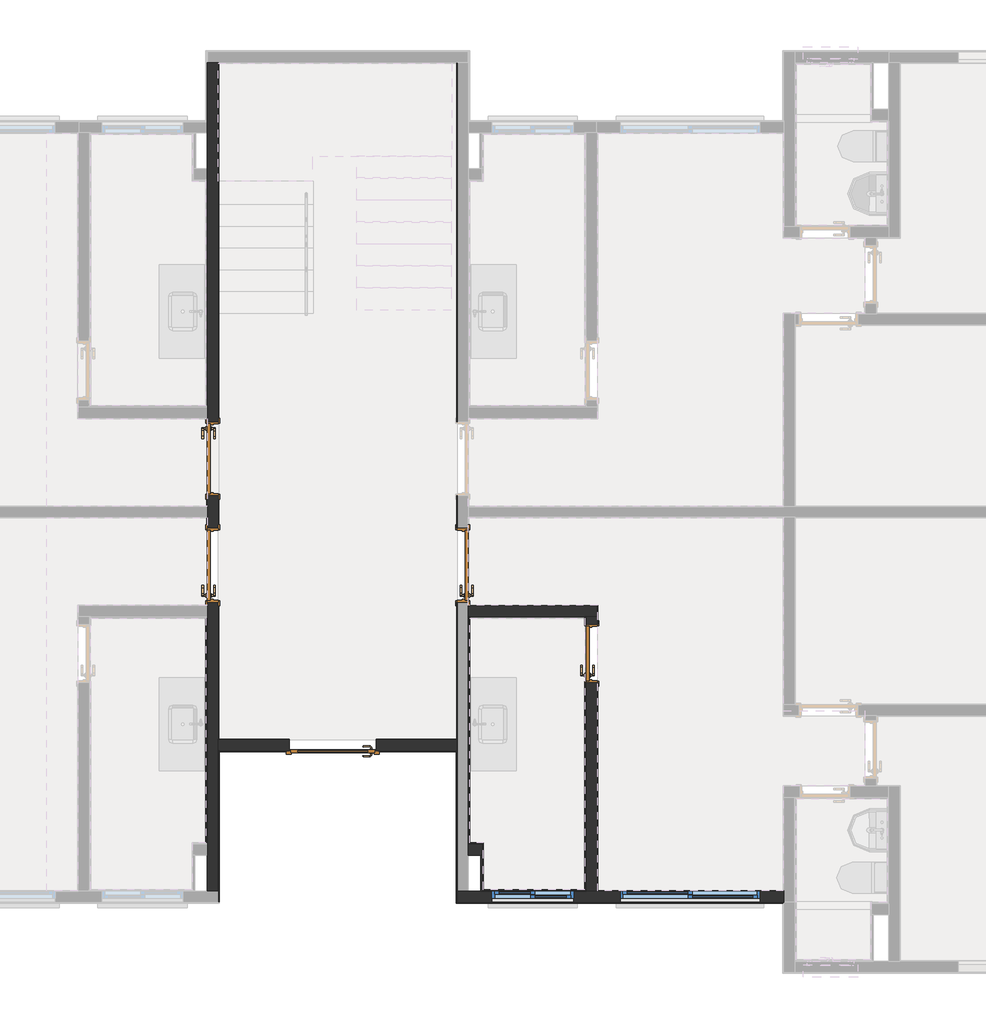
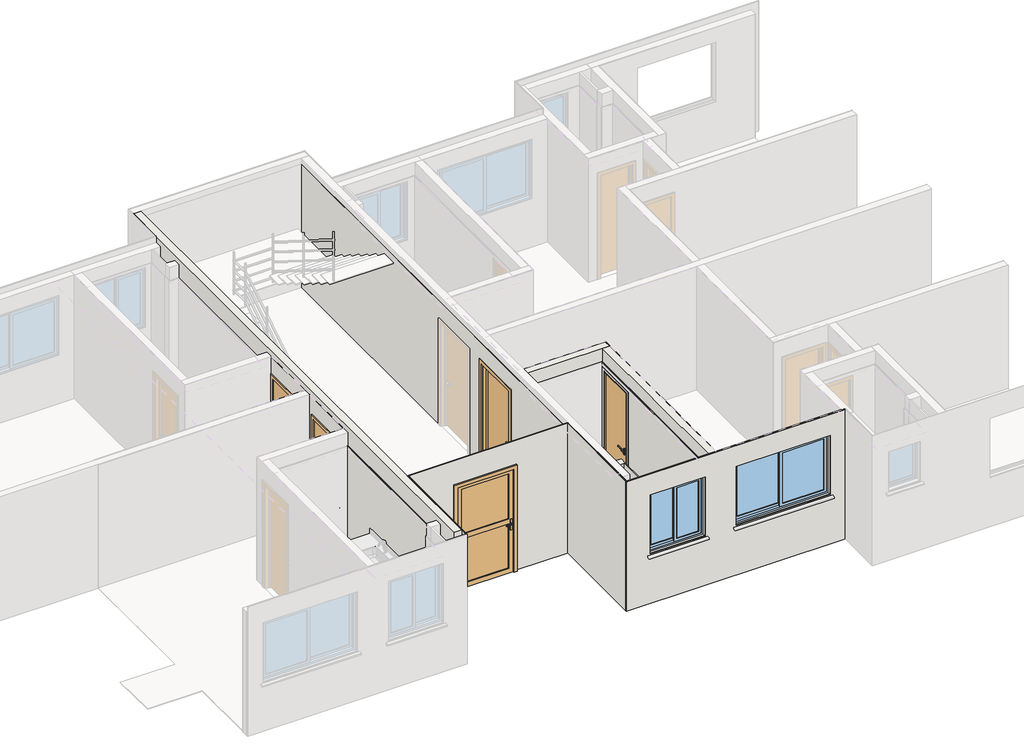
# One storey, part 3 of 9: 25 walls, 5 doors, 2 windows.
"""IFC4 building model written with IfcOpenShell, lengths in millimetres."""

from ifc_helpers import new_model, si_unit, frame, origin, place, context, project, spatial, polyline, outline, extrude, faceted_brep, transform, mapped, element, save
from components import porta_de_entrada_torre_110x210_d7ea5157, porta_de_madeira_interna_70_x_210_porta_de_madeira_interna_d0067c94, porta_de_madeira_interna_90x210_porta_de_madeira_interna_90_f8e7363e, porta_de_madeira_interna_90x210_porta_de_madeira_interna_90_f331fdd0, window_105x120_428ac20c, window_180x120_e659ab7e

model = new_model("IFC4")

# Units and contexts
model_context = context("Model", 3, world=origin())
ifc_project = project(units=[si_unit("LENGTHUNIT", "METRE", prefix="MILLI")], contexts=[model_context])

# Site, building, storey
site = spatial("IfcSite", under=ifc_project)
building = spatial("IfcBuilding", under=site)
storey = spatial("IfcBuildingStorey", under=building, Name="3º Pavimento", Elevation=5260.0)

# Doors
placement = place(None, origin())
porta_de_entrada_torre_110x210_shape = porta_de_entrada_torre_110x210_d7ea5157(model_context)
element("IfcDoor", 1, ObjectType="Porta de Entrada Torre : 110x210", at=placement, inside=storey, context=model_context, shape_type="MappedRepresentation", body=[
    mapped(porta_de_entrada_torre_110x210_shape, transform((10345.9990083, 3322.00443, 5260.0), x_axis=(-1.0, 0.0, 0.0), y_axis=(0.0, -1.0, 0.0), z_axis=(0.0, 0.0, 1.0))),
])
porta_de_madeira_interna_70_x_210_porta_de_madeira_interna_shape = porta_de_madeira_interna_70_x_210_porta_de_madeira_interna_d0067c94(model_context)
element("IfcDoor", 2, ObjectType="Porta de Madeira Interna 70 x 210 : Porta de Madeira Interna 70 x 210", at=placement, inside=storey, context=model_context, shape_type="MappedRepresentation", body=[
    mapped(porta_de_madeira_interna_70_x_210_porta_de_madeira_interna_shape, transform((13673.8210213, 4578.6603139, 5260.0), x_axis=(0.0, 1.0, 0.0), y_axis=(-1.0, 0.0, 0.0), z_axis=(0.0, 0.0, 1.0))),
])
porta_de_madeira_interna_90x210_porta_de_madeira_interna_90_shape = porta_de_madeira_interna_90x210_porta_de_madeira_interna_90_f8e7363e(model_context)
element("IfcDoor", 3, ObjectType="Porta de Madeira Interna 90x210 : Porta de Madeira Interna 90 x 210", at=placement, inside=storey, context=model_context, shape_type="MappedRepresentation", body=[
    mapped(porta_de_madeira_interna_90x210_porta_de_madeira_interna_90_shape, transform((8796.8213008, 7085.0103139, 5260.0), x_axis=(0.0, -1.0, 0.0), y_axis=(1.0, 0.0, 0.0), z_axis=(0.0, 0.0, 1.0))),
])
element("IfcDoor", 4, ObjectType="Porta de Madeira Interna 90x210 : Porta de Madeira Interna 90 x 210", at=placement, inside=storey, context=model_context, shape_type="MappedRepresentation", body=[
    mapped(porta_de_madeira_interna_90x210_porta_de_madeira_interna_90_shape, transform((12023.1734066, 5715.0103139, 5260.0), x_axis=(0.0, 1.0, 0.0), y_axis=(-1.0, 0.0, 0.0), z_axis=(0.0, 0.0, 1.0))),
])
porta_de_madeira_interna_90x210_porta_de_madeira_interna_90_2_shape = porta_de_madeira_interna_90x210_porta_de_madeira_interna_90_f331fdd0(model_context)
element("IfcDoor", 5, ObjectType="Porta de Madeira Interna 90x210 : Porta de Madeira Interna 90 x 210", at=placement, inside=storey, context=model_context, shape_type="MappedRepresentation", body=[
    mapped(porta_de_madeira_interna_90x210_porta_de_madeira_interna_90_2_shape, transform((8796.8213008, 5715.0103139, 5260.0), x_axis=(0.0, 1.0, 0.0), y_axis=(-1.0, 0.0, 0.0), z_axis=(0.0, 0.0, 1.0))),
])

# Walls
element("IfcWall", 6, ObjectType="Alvenaria Estrutural", at=placement, inside=storey, context=model_context, shape_type="Brep", body=[
    faceted_brep([(8869.9953936, 3330.00443, 7770.0), (8869.9953936, 3330.00443, 5260.0), (8886.0600094, 3330.00443, 5260.0), (9745.9990083, 3330.00443, 5260.0), (9785.9990083, 3330.00443, 5260.0), (9785.9990083, 3330.00443, 7370.0), (10905.9990083, 3330.00443, 7370.0), (10905.9990083, 3330.00443, 5260.0), (10945.9990083, 3330.00443, 5260.0), (11933.9956991, 3330.00443, 5260.0), (11944.9956991, 3330.00443, 5260.0), (11944.9956991, 3330.00443, 7770.0), (8869.9953936, 3470.00443, 5260.0), (8869.9953936, 3470.00443, 7770.0), (8875.9991022, 3470.00443, 7770.0), (11943.9984066, 3470.00443, 7770.0), (11944.9956991, 3470.00443, 7770.0), (11944.9956991, 3470.00443, 5260.0), (11943.9984066, 3470.00443, 5260.0), (10905.9990083, 3470.00443, 5260.0), (10905.9990083, 3470.00443, 7370.0), (9785.9990083, 3470.00443, 7370.0), (9785.9990083, 3470.00443, 5260.0), (8875.9991022, 3470.00443, 5260.0)], [[[0, 1, 2, 3, 4, 5, 6, 7, 8, 9, 10, 11]], [[12, 13, 14, 15, 16, 17, 18, 19, 20, 21, 22, 23]], [[2, 1, 12, 23, 22, 4, 3]], [[1, 0, 13, 12]], [[0, 11, 16, 15, 14, 13]], [[6, 5, 21, 20]], [[7, 6, 20, 19]], [[5, 4, 22, 21]], [[8, 7, 19, 18, 17, 10, 9]], [[11, 10, 17, 16]]]),
])
element("IfcWall", 7, ObjectType="Alvenaria Estrutural", at=placement, inside=storey, context=model_context, shape_type="Brep", body=[
    faceted_brep([(8729.9963008, 12179.9995833, 5260.0), (8729.9963008, 12179.9995833, 5270.0), (8729.9963008, 12179.9995833, 7780.0), (8729.9963008, 12179.9995833, 7890.0), (8869.9963008, 12179.9995833, 7890.0), (8869.9963008, 12179.9995833, 7780.0), (8869.9963008, 12179.9995833, 7770.0), (8869.9963008, 12179.9995833, 5270.0), (8869.9963008, 12179.9995833, 5260.0), (8729.9963008, 11436.0223004, 5260.0), (8869.9963008, 7560.0103139, 5260.0), (8729.9963008, 7560.0103139, 5260.0), (8729.9963008, 7606.3603139, 5260.0), (8729.9963008, 7746.3603139, 5260.0), (8729.9963008, 7766.3603139, 5260.0), (8729.9963008, 10655.0073729, 5260.0), (8729.9963008, 10675.0073729, 5260.0), (8729.9963008, 10815.0073729, 5260.0), (8729.9963008, 11420.0223004, 5260.0), (8729.9963008, 7560.0103139, 5270.0), (8869.9963008, 7560.0103139, 5270.0), (8869.9963008, 7560.0103139, 7385.0), (8729.9963008, 7560.0103139, 7385.0), (8729.9963008, 6610.0103139, 5260.0), (8729.9963008, 6610.0103139, 5270.0), (8729.9963008, 6610.0103139, 7385.0), (8869.9963008, 6610.0103139, 7385.0), (8869.9963008, 6610.0103139, 5270.0), (8869.9963008, 6610.0103139, 5260.0), (8729.9963008, 6476.0103139, 5260.0), (8869.9963008, 6190.0103139, 5260.0), (8729.9963008, 6190.0103139, 5260.0), (8729.9963008, 6324.0103139, 5260.0), (8729.9963008, 6330.0103139, 5260.0), (8729.9963008, 6470.0103139, 5260.0), (8729.9963008, 6190.0103139, 5270.0), (8869.9963008, 6190.0103139, 5270.0), (8869.9963008, 6190.0103139, 7385.0), (8729.9963008, 6190.0103139, 7385.0), (8729.9963008, 5240.0103139, 5260.0), (8729.9963008, 5240.0103139, 5270.0), (8729.9963008, 5240.0103139, 7385.0), (8869.9963008, 5240.0103139, 7385.0), (8869.9963008, 5240.0103139, 5270.0), (8869.9963008, 5240.0103139, 5260.0), (8729.9963008, 5193.6603139, 5260.0), (8869.9963008, 3474.9995833, 5260.0), (8869.9963008, 3470.00443, 5260.0), (8869.9963008, 3330.00443, 5260.0), (8869.9963008, 1519.9983274, 5260.0), (8729.9963008, 1519.9983274, 5260.0), (8729.9963008, 1985.0132549, 5260.0), (8729.9963008, 2125.0132549, 5260.0), (8729.9963008, 2145.0132549, 5260.0), (8729.9963008, 5033.6603139, 5260.0), (8729.9963008, 5053.6603139, 5260.0), (8729.9963008, 1519.9983274, 5270.0), (8869.9963008, 1519.9983274, 5270.0), (8869.9963008, 1519.9983274, 7780.0), (8869.9963008, 1519.9983274, 7890.0), (8729.9963008, 1519.9983274, 7890.0), (8729.9963008, 1519.9983274, 7780.0), (8729.9963008, 11420.0223004, 7890.0), (8729.9963008, 11436.0223004, 7890.0)], [[[0, 1, 2, 3, 4, 5, 6, 7, 8]], [[9, 0, 8, 10, 11, 12, 13, 14, 15, 16, 17, 18]], [[19, 11, 10, 20, 21, 22]], [[23, 24, 25, 26, 27, 28]], [[29, 23, 28, 30, 31, 32, 33, 34]], [[35, 31, 30, 36, 37, 38]], [[39, 40, 41, 42, 43, 44]], [[45, 39, 44, 46, 47, 48, 49, 50, 51, 52, 53, 54, 55]], [[56, 50, 49, 57, 58, 59, 60, 61]], [[57, 49, 48, 47, 46, 44, 43, 42, 37, 36, 30, 28, 27, 26, 21, 20, 10, 8, 7, 6, 5, 4, 59, 58]], [[25, 22, 21, 26]], [[41, 38, 37, 42]], [[62, 60, 59, 4, 3, 63]], [[40, 39, 45, 55, 54, 53, 52, 51, 50, 56, 61, 60, 62, 63, 3, 2, 1, 0, 9, 18, 17, 16, 15, 14, 13, 12, 11, 19, 22, 25, 24, 23, 29, 34, 33, 32, 31, 35, 38, 41]]]),
])
element("IfcWall", 8, ObjectType="Alvenaria Estrutural", at=placement, inside=storey, context=model_context, shape_type="Brep", body=[
    faceted_brep([(16149.9956991, 1519.9983274, 5270.0), (16143.9956991, 1519.9983274, 5270.0), (11949.9956991, 1519.9983274, 5270.0), (11949.9956991, 1519.9983274, 7780.0), (16149.9956991, 1519.9983274, 7780.0), (16149.9956991, 1519.9983274, 7770.0), (12394.9954974, 1519.9983274, 7460.0), (12394.9954974, 1519.9983274, 6260.0), (13444.9954974, 1519.9983274, 6260.0), (13444.9954974, 1519.9983274, 7460.0), (14044.9954574, 1519.9983274, 7460.0), (14044.9954574, 1519.9983274, 6260.0), (15844.9954574, 1519.9983274, 6260.0), (15844.9954574, 1519.9983274, 7460.0), (11949.9956991, 1379.9983274, 5270.0), (16133.9960602, 1379.9983274, 5270.0), (16149.9956991, 1379.9983274, 5270.0), (16149.9956991, 1379.9983274, 7780.0), (11949.9956991, 1379.9983274, 7780.0), (12394.9954974, 1379.9983274, 6260.0), (12394.9954974, 1379.9983274, 7460.0), (13444.9954974, 1379.9983274, 7460.0), (13444.9954974, 1379.9983274, 6260.0), (13494.9954974, 1379.9983274, 6260.0), (13494.9954974, 1379.9983274, 6211.3083694), (12344.9954974, 1379.9983274, 6211.3083694), (12344.9954974, 1379.9983274, 6260.0), (15894.9954574, 1379.9983274, 6260.0), (15894.9954574, 1379.9983274, 6211.3083694), (13994.9954574, 1379.9983274, 6211.3083694), (13994.9954574, 1379.9983274, 6260.0), (14044.9954574, 1379.9983274, 6260.0), (14044.9954574, 1379.9983274, 7460.0), (15844.9954574, 1379.9983274, 7460.0), (15844.9954574, 1379.9983274, 6260.0), (16149.9956991, 1449.9983274, 5270.0), (12344.9954974, 1477.4983274, 6232.0326341), (12344.9954974, 1477.4983274, 6260.0), (13494.9954974, 1477.4983274, 6260.0), (13494.9954974, 1477.4983274, 6232.0326341), (13444.9954974, 1477.4983274, 6260.0), (12394.9954974, 1477.4983274, 6260.0), (15894.9954574, 1477.4983274, 6260.0), (15894.9954574, 1477.4983274, 6232.0326341), (13994.9954574, 1477.4983274, 6232.0326341), (13994.9954574, 1477.4983274, 6260.0), (15844.9954574, 1477.4983274, 6260.0), (14044.9954574, 1477.4983274, 6260.0)], [[[0, 1, 2, 3, 4, 5], [6, 7, 8, 9], [10, 11, 12, 13]], [[14, 15, 16, 17, 18], [19, 20, 21, 22, 23, 24, 25, 26], [27, 28, 29, 30, 31, 32, 33, 34]], [[1, 0, 35, 16, 15, 14, 2]], [[3, 2, 14, 18]], [[4, 3, 18, 17]], [[5, 4, 17, 16, 35, 0]], [[26, 25, 36, 37]], [[24, 23, 38, 39]], [[37, 36, 39, 38, 40, 41]], [[19, 26, 37, 41]], [[25, 24, 39, 36]], [[7, 6, 20, 19, 41]], [[6, 9, 21, 20]], [[9, 8, 40, 22, 21]], [[8, 7, 41, 40]], [[28, 27, 42, 43]], [[30, 29, 44, 45]], [[43, 42, 46, 47, 45, 44]], [[27, 34, 46, 42]], [[29, 28, 43, 44]], [[11, 10, 32, 31, 47]], [[10, 13, 33, 32]], [[13, 12, 46, 34, 33]], [[12, 11, 47, 46]], [[31, 30, 45, 47]], [[23, 22, 40, 38]]]),
])
element("IfcWall", 9, ObjectType="Alvenaria Estrutural", at=placement, inside=storey, context=model_context, shape_type="Brep", body=[
    faceted_brep([(12089.9984066, 1985.0132549, 5260.0), (12249.9983974, 1985.0132549, 5260.0), (12272.9983974, 1985.0132549, 5260.0), (12272.9983974, 1985.0132549, 7770.0), (12249.9983974, 1985.0132549, 7770.0), (12089.9984066, 1985.0132549, 7770.0), (12089.9984066, 2125.0132549, 5260.0), (12089.9984066, 2125.0132549, 7510.0), (12089.9984066, 2125.0132549, 7770.0), (12272.9983974, 2125.0132549, 7770.0), (12272.9983974, 2125.0132549, 5260.0), (12109.9984066, 2125.0132549, 5260.0)], [[[0, 1, 2, 3, 4, 5]], [[6, 7, 8, 9, 10, 11]], [[1, 0, 6, 11, 10, 2]], [[4, 3, 9, 8, 5]], [[3, 2, 10, 9]], [[0, 5, 8, 7, 6]]]),
])
element("IfcWall", 10, ObjectType="Alvenaria Estrutural", at=placement, inside=storey, context=model_context, shape_type="Brep", body=[
    faceted_brep([(12089.9984066, 5053.6603139, 5260.0), (12109.9984066, 5053.6603139, 5260.0), (13586.992975, 5053.6603139, 5260.0), (13606.9960213, 5053.6603139, 5260.0), (13746.9960213, 5053.6603139, 5260.0), (13746.9960213, 5053.6603139, 7770.0), (13606.9960213, 5053.6603139, 7770.0), (12089.9984066, 5053.6603139, 7770.0), (12089.9984066, 5053.6603139, 7510.0), (12089.9984066, 5193.6603139, 5260.0), (12089.9984066, 5193.6603139, 7770.0), (12095.9984066, 5193.6603139, 7770.0), (13746.9960213, 5193.6603139, 7770.0), (13746.9960213, 5193.6603139, 5260.0), (12095.9984066, 5193.6603139, 5260.0)], [[[0, 1, 2, 3, 4, 5, 6, 7, 8]], [[9, 10, 11, 12, 13, 14]], [[1, 0, 9, 14, 13, 4, 3, 2]], [[6, 5, 12, 11, 10, 7]], [[5, 4, 13, 12]], [[8, 7, 10, 9, 0]]]),
])
element("IfcWall", 11, ObjectType="Alvenaria Estrutural", at=placement, inside=storey, context=model_context, shape_type="Brep", body=[
    faceted_brep([(13746.9960213, 1519.9983274, 5260.0), (13746.9960213, 1519.9983274, 5270.0), (13746.9960213, 1519.9983274, 7770.0), (13606.9960213, 1519.9983274, 7770.0), (13606.9960213, 1519.9983274, 7510.0), (13606.9960213, 1519.9983274, 5270.0), (13606.9960213, 1519.9983274, 5260.0), (13746.9960213, 1525.9983274, 5260.0), (13606.9960213, 1539.9983274, 5260.0), (13606.9960213, 4203.6603139, 5260.0), (13746.9960213, 4203.6603139, 5260.0), (13746.9960213, 4203.6603139, 5270.0), (13606.9960213, 4203.6603139, 5270.0), (13606.9960213, 4203.6603139, 7385.0), (13746.9960213, 4203.6603139, 7385.0), (13746.9960213, 4953.6603139, 5260.0), (13746.9960213, 4953.6603139, 5270.0), (13746.9960213, 4953.6603139, 7385.0), (13606.9960213, 4953.6603139, 7385.0), (13606.9960213, 4953.6603139, 5270.0), (13606.9960213, 4953.6603139, 5260.0), (13746.9960213, 5053.6603139, 5260.0), (13606.9960213, 5033.6603139, 5260.0), (13606.9960213, 5053.6603139, 5260.0), (13746.9960213, 5053.6603139, 5270.0), (13606.9960213, 5053.6603139, 5270.0), (13606.9960213, 5053.6603139, 7510.0), (13606.9960213, 5053.6603139, 7770.0), (13746.9960213, 5053.6603139, 7770.0), (13746.9960213, 1525.9983274, 7770.0)], [[[0, 1, 2, 3, 4, 5, 6]], [[7, 0, 6, 8, 9, 10]], [[11, 10, 9, 12, 13, 14]], [[15, 16, 17, 18, 19, 20]], [[21, 15, 20, 22, 23]], [[24, 21, 23, 25, 26, 27, 28]], [[25, 23, 22, 20, 19, 18, 13, 12, 9, 8, 6, 5, 4, 3, 27, 26]], [[29, 28, 27, 3, 2]], [[17, 14, 13, 18]], [[16, 15, 21, 24, 28, 29, 2, 1, 0, 7, 10, 11, 14, 17]]]),
])
element("IfcWall", 12, ObjectType="Azulejo", at=placement, inside=storey, context=model_context, shape_type="SweptSolid", body=[
    extrude(outline(polyline([(8709.9963008, 2125.0132549), (8709.9963008, 5053.6603139), (8719.9963008, 5053.6603139), (8719.9963008, 2125.0132549), (8709.9963008, 2125.0132549)])), frame((0.0, 0.0, 5260.0), z_axis=(0.0, 0.0, 1.0), x_axis=(1.0, 0.0, 0.0)), (0.0, 0.0, 1.0), 2250.0),
    extrude(outline(polyline([(8729.9963008, 5053.6603139), (8729.9963008, 2125.0132549), (8719.9963008, 2125.0132549), (8719.9963008, 5053.6603139), (8729.9963008, 5053.6603139)])), frame((0.0, 0.0, 5260.0), z_axis=(0.0, 0.0, 1.0), x_axis=(1.0, 0.0, 0.0)), (0.0, 0.0, 1.0), 2250.0),
])
element("IfcWall", 13, ObjectType="Azulejo", at=placement, inside=storey, context=model_context, shape_type="Brep", body=[
    faceted_brep([(13586.992975, 1519.9983274, 5260.0), (13586.992975, 4203.6603139, 5260.0), (13596.992975, 4203.6603139, 5260.0), (13596.992975, 1519.9983274, 5260.0), (13596.992975, 1519.9983274, 5270.0), (13596.992975, 1519.9983274, 7510.0), (13586.992975, 1519.9983274, 7510.0), (13586.992975, 1519.9983274, 5270.0), (13586.992975, 5053.6603139, 5260.0), (13586.992975, 5053.6603139, 5270.0), (13586.992975, 5053.6603139, 7510.0), (13596.992975, 5053.6603139, 7510.0), (13596.992975, 5053.6603139, 5270.0), (13596.992975, 5053.6603139, 5260.0), (13596.992975, 4953.6603139, 5260.0), (13586.992975, 4953.6603139, 5260.0), (13586.992975, 4953.6603139, 5270.0), (13596.992975, 4953.6603139, 5270.0), (13596.992975, 4953.6603139, 7385.0), (13586.992975, 4953.6603139, 7385.0), (13586.992975, 4203.6603139, 5270.0), (13586.992975, 4203.6603139, 7385.0), (13596.992975, 4203.6603139, 7385.0), (13596.992975, 4203.6603139, 5270.0)], [[[0, 1, 2, 3]], [[0, 3, 4, 5, 6, 7]], [[8, 9, 10, 11, 12, 13]], [[14, 15, 8, 13]], [[16, 15, 14, 17, 18, 19]], [[2, 1, 20, 21, 22, 23]], [[3, 2, 23, 22, 18, 17, 14, 13, 12, 11, 5, 4]], [[10, 6, 5, 11]], [[21, 19, 18, 22]], [[1, 0, 7, 6, 10, 9, 8, 15, 16, 19, 21, 20]]]),
    faceted_brep([(13596.992975, 4203.6603139, 5260.0), (13596.992975, 1519.9983274, 5260.0), (13596.992975, 1519.9983274, 5270.0), (13596.992975, 1519.9983274, 7510.0), (13596.992975, 5053.6603139, 7510.0), (13596.992975, 5053.6603139, 5270.0), (13596.992975, 5053.6603139, 5260.0), (13596.992975, 4953.6603139, 5260.0), (13596.992975, 4953.6603139, 5270.0), (13596.992975, 4953.6603139, 7385.0), (13596.992975, 4203.6603139, 7385.0), (13596.992975, 4203.6603139, 5270.0), (13606.992975, 4203.6603139, 5260.0), (13606.992975, 1519.9983274, 5260.0), (13606.992975, 1519.9983274, 5270.0), (13606.992975, 1519.9983274, 7510.0), (13606.992975, 5053.6603139, 7510.0), (13606.992975, 5053.6603139, 5270.0), (13606.992975, 5053.6603139, 5260.0), (13606.992975, 4953.6603139, 5260.0), (13606.992975, 4953.6603139, 5270.0), (13606.992975, 4953.6603139, 7385.0), (13606.992975, 4203.6603139, 7385.0), (13606.992975, 4203.6603139, 5270.0)], [[[0, 1, 2, 3, 4, 5, 6, 7, 8, 9, 10, 11]], [[1, 0, 12, 13]], [[2, 1, 13, 14, 15, 3]], [[6, 5, 4, 16, 17, 18]], [[7, 6, 18, 19]], [[8, 7, 19, 20, 21, 9]], [[0, 11, 10, 22, 23, 12]], [[14, 13, 12, 23, 22, 21, 20, 19, 18, 17, 16, 15]], [[4, 3, 15, 16]], [[10, 9, 21, 22]]]),
])
element("IfcWall", 14, ObjectType="Azulejo", at=placement, inside=storey, context=model_context, shape_type="SweptSolid", body=[
    extrude(outline(polyline([(12109.9984066, 5053.6603139), (12109.9984066, 2125.0132549), (12099.9984066, 2125.0132549), (12099.9984066, 5053.6603139), (12109.9984066, 5053.6603139)])), frame((0.0, 0.0, 5260.0), z_axis=(0.0, 0.0, 1.0), x_axis=(1.0, 0.0, 0.0)), (0.0, 0.0, 1.0), 2250.0),
    extrude(outline(polyline([(12089.9984066, 2125.0132549), (12089.9984066, 5053.6603139), (12099.9984066, 5053.6603139), (12099.9984066, 2125.0132549), (12089.9984066, 2125.0132549)])), frame((0.0, 0.0, 5260.0), z_axis=(0.0, 0.0, 1.0), x_axis=(1.0, 0.0, 0.0)), (0.0, 0.0, 1.0), 2250.0),
])
element("IfcWall", 15, ObjectType="Azulejo", at=placement, inside=storey, context=model_context, shape_type="SolidModel", body=[
    extrude(outline(polyline([(12089.9984066, 2145.0132549), (12282.9983974, 2145.0132549), (12282.9983974, 2135.0132549), (12089.9984066, 2135.0132549), (12089.9984066, 2145.0132549)])), frame((0.0, 0.0, 5260.0), z_axis=(0.0, 0.0, 1.0), x_axis=(1.0, 0.0, 0.0)), (0.0, 0.0, 1.0), 2250.0),
    faceted_brep([(12272.9983974, 2135.0132549, 5260.0), (12089.9984066, 2135.0132549, 5260.0), (12089.9984066, 2135.0132549, 7510.0), (12272.9983974, 2135.0132549, 7510.0), (12272.9983974, 2125.0132549, 5260.0), (12272.9983974, 2125.0132549, 7510.0), (12262.9983974, 2125.0132549, 7510.0), (12089.9984066, 2125.0132549, 7510.0), (12089.9984066, 2125.0132549, 5260.0), (12262.9983974, 2125.0132549, 5260.0)], [[[0, 1, 2, 3]], [[4, 5, 6, 7, 8, 9]], [[9, 8, 1, 0, 4]], [[6, 5, 3, 2, 7]], [[8, 7, 2, 1]], [[5, 4, 0, 3]]]),
])
element("IfcWall", 16, ObjectType="Azulejo", at=placement, inside=storey, context=model_context, shape_type="SolidModel", body=[
    faceted_brep([(12282.9983974, 1539.9983274, 5260.0), (13606.9960213, 1539.9983274, 5260.0), (13606.9960213, 1529.9983274, 5260.0), (12272.9983974, 1529.9983274, 5260.0), (12272.9983974, 1539.9983274, 5260.0), (12282.9983974, 1539.9983274, 7510.0), (12272.9983974, 1539.9983274, 7510.0), (12272.9983974, 1529.9983274, 7510.0), (13606.9960213, 1529.9983274, 7510.0), (13606.9960213, 1539.9983274, 7510.0), (12394.9954974, 1539.9983274, 6260.0), (12394.9954974, 1539.9983274, 7460.0), (12394.9954974, 1529.9983274, 7460.0), (12394.9954974, 1529.9983274, 6260.0), (13444.9954974, 1539.9983274, 7460.0), (13444.9954974, 1529.9983274, 7460.0), (13444.9954974, 1539.9983274, 6260.0), (13444.9954974, 1529.9983274, 6260.0)], [[[0, 1, 2, 3, 4]], [[5, 6, 7, 8, 9]], [[10, 11, 12, 13]], [[11, 14, 15, 12]], [[14, 16, 17, 15]], [[16, 10, 13, 17]], [[1, 9, 8, 2]], [[6, 4, 3, 7]], [[3, 2, 8, 7], [13, 12, 15, 17]], [[1, 0, 4, 6, 5, 9], [10, 16, 14, 11]]]),
    extrude(outline(polyline([(5260.0, 13606.9960213), (7510.0, 13606.9960213), (7510.0, 12272.9983974), (5260.0, 12272.9983974), (5260.0, 13606.9960213)]), holes=[polyline([(6260.0, 12394.9954974), (7460.0, 12394.9954974), (7460.0, 13444.9954974), (6260.0, 13444.9954974), (6260.0, 12394.9954974)])]), frame((0.0, 1519.9983274, 0.0), z_axis=(0.0, 1.0, 0.0), x_axis=(0.0, 0.0, 1.0)), (0.0, 0.0, 1.0), 10.0),
])
element("IfcWall", 17, ObjectType="Azulejo", at=placement, inside=storey, context=model_context, shape_type="SweptSolid", body=[
    extrude(outline(polyline([(12282.9983974, 2135.0132549), (12282.9983974, 1985.0132549), (12272.9983974, 1985.0132549), (12272.9983974, 2135.0132549), (12282.9983974, 2135.0132549)])), frame((0.0, 0.0, 5260.0), z_axis=(0.0, 0.0, 1.0), x_axis=(1.0, 0.0, 0.0)), (0.0, 0.0, 1.0), 2250.0),
    extrude(outline(polyline([(12262.9983974, 1985.0132549), (12262.9983974, 2125.0132549), (12272.9983974, 2125.0132549), (12272.9983974, 1985.0132549), (12262.9983974, 1985.0132549)])), frame((0.0, 0.0, 5260.0), z_axis=(0.0, 0.0, 1.0), x_axis=(1.0, 0.0, 0.0)), (0.0, 0.0, 1.0), 2250.0),
])
element("IfcWall", 18, ObjectType="Azulejo - Shaft", at=placement, inside=storey, context=model_context, shape_type="SweptSolid", body=[
    extrude(outline(polyline([(12282.9983974, 1985.0132549), (12282.9983974, 1539.9983274), (12272.9983974, 1539.9983274), (12272.9983974, 1985.0132549), (12282.9983974, 1985.0132549)])), frame((0.0, 0.0, 5260.0), z_axis=(0.0, 0.0, 1.0), x_axis=(1.0, 0.0, 0.0)), (0.0, 0.0, 1.0), 2250.0),
])
element("IfcWall", 19, ObjectType="Gesso Liso + Pintura", at=placement, inside=storey, context=model_context, shape_type="SolidModel", body=[
    faceted_brep([(8723.9963008, 6190.0103139, 5260.0), (8723.9963008, 6330.0103139, 5260.0), (8724.9963008, 6330.0103139, 5260.0), (8724.9963008, 6190.0103139, 5260.0), (8724.9963008, 6330.0103139, 7770.0), (8723.9963008, 6330.0103139, 7770.0), (8723.9963008, 5199.6603139, 7770.0), (8723.9963008, 5198.6603139, 7770.0), (8724.9963008, 5198.6603139, 7770.0), (8724.9963008, 6190.0103139, 7385.0), (8723.9963008, 6190.0103139, 7385.0), (8724.9963008, 5240.0103139, 7385.0), (8723.9963008, 5240.0103139, 7385.0), (8724.9963008, 5240.0103139, 5260.0), (8723.9963008, 5240.0103139, 5260.0), (8724.9963008, 5198.6603139, 5260.0), (8723.9963008, 5198.6603139, 5260.0), (8723.9963008, 5199.6603139, 5260.0)], [[[0, 1, 2, 3]], [[4, 5, 6, 7, 8]], [[0, 3, 9, 10]], [[10, 9, 11, 12]], [[12, 11, 13, 14]], [[2, 1, 5, 4]], [[14, 13, 15, 16, 17]], [[3, 2, 4, 8, 15, 13, 11, 9]], [[1, 0, 10, 12, 14, 17, 16, 7, 6, 5]], [[8, 7, 16, 15]]]),
    extrude(outline(polyline([(6330.0103139, 5260.0), (6190.0103139, 5260.0), (6190.0103139, 7385.0), (5240.0103139, 7385.0), (5240.0103139, 5260.0), (5193.6603139, 5260.0), (5193.6603139, 7770.0), (6330.0103139, 7770.0), (6330.0103139, 5260.0)])), frame((8724.9963008, 0.0, 0.0), z_axis=(1.0, 0.0, 0.0), x_axis=(0.0, 1.0, 0.0)), (0.0, 0.0, 1.0), 5.0),
])
element("IfcWall", 20, ObjectType="Gesso Liso + Pintura", at=placement, inside=storey, context=model_context, shape_type="SolidModel", body=[
    faceted_brep([(8723.9963008, 6470.0103139, 5260.0), (8723.9963008, 6610.0103139, 5260.0), (8724.9963008, 6610.0103139, 5260.0), (8724.9963008, 6470.0103139, 5260.0), (8723.9963008, 7600.3603139, 7770.0), (8723.9963008, 6470.0103139, 7770.0), (8724.9963008, 6470.0103139, 7770.0), (8724.9963008, 7601.3603139, 7770.0), (8723.9963008, 7601.3603139, 7770.0), (8723.9963008, 6610.0103139, 7385.0), (8724.9963008, 6610.0103139, 7385.0), (8723.9963008, 7560.0103139, 7385.0), (8724.9963008, 7560.0103139, 7385.0), (8723.9963008, 7560.0103139, 5260.0), (8724.9963008, 7560.0103139, 5260.0), (8723.9963008, 7600.3603139, 5260.0), (8723.9963008, 7601.3603139, 5260.0), (8724.9963008, 7601.3603139, 5260.0)], [[[0, 1, 2, 3]], [[4, 5, 6, 7, 8]], [[2, 1, 9, 10]], [[10, 9, 11, 12]], [[12, 11, 13, 14]], [[0, 3, 6, 5]], [[14, 13, 15, 16, 17]], [[3, 2, 10, 12, 14, 17, 7, 6]], [[1, 0, 5, 4, 8, 16, 15, 13, 11, 9]], [[8, 7, 17, 16]]]),
    extrude(outline(polyline([(6610.0103139, 5260.0), (6470.0103139, 5260.0), (6470.0103139, 7770.0), (7606.3603139, 7770.0), (7606.3603139, 5260.0), (7560.0103139, 5260.0), (7560.0103139, 7385.0), (6610.0103139, 7385.0), (6610.0103139, 5260.0)])), frame((8724.9963008, 0.0, 0.0), z_axis=(1.0, 0.0, 0.0), x_axis=(0.0, 1.0, 0.0)), (0.0, 0.0, 1.0), 5.0),
])
element("IfcWall", 21, ObjectType="Gesso Liso + Pintura", at=placement, inside=storey, context=model_context, shape_type="Brep", body=[
    faceted_brep([(13751.9960213, 4203.6603139, 5260.0), (13752.9960213, 4203.6603139, 5260.0), (13752.9960213, 1519.9983274, 5260.0), (13751.9960213, 1519.9983274, 5260.0), (13752.9960213, 4203.6603139, 5270.0), (13751.9960213, 4203.6603139, 5270.0), (13751.9960213, 4203.6603139, 7385.0), (13752.9960213, 4203.6603139, 7385.0), (13751.9960213, 4953.6603139, 5260.0), (13752.9960213, 4953.6603139, 5260.0), (13752.9960213, 4953.6603139, 5270.0), (13752.9960213, 4953.6603139, 7385.0), (13751.9960213, 4953.6603139, 7385.0), (13751.9960213, 4953.6603139, 5270.0), (13752.9960213, 5198.6603139, 5260.0), (13751.9960213, 5198.6603139, 5260.0), (13752.9960213, 1519.9983274, 5270.0), (13752.9960213, 1519.9983274, 7770.0), (13751.9960213, 1519.9983274, 7770.0), (13751.9960213, 1519.9983274, 5270.0), (13752.9960213, 5198.6603139, 5270.0), (13752.9960213, 5198.6603139, 7770.0), (13751.9960213, 5198.6603139, 5270.0), (13751.9960213, 5198.6603139, 7770.0)], [[[0, 1, 2, 3]], [[4, 1, 0, 5, 6, 7]], [[8, 9, 10, 11, 12, 13]], [[14, 9, 8, 15]], [[2, 16, 17, 18, 19, 3]], [[1, 4, 7, 11, 10, 9, 14, 20, 21, 17, 16, 2]], [[20, 14, 15, 22, 23, 21]], [[11, 7, 6, 12]], [[17, 21, 23, 18]], [[5, 0, 3, 19, 18, 23, 22, 15, 8, 13, 12, 6]]]),
    faceted_brep([(13751.9960213, 4953.6603139, 5270.0), (13751.9960213, 4953.6603139, 5260.0), (13751.9960213, 5193.6603139, 5260.0), (13751.9960213, 5193.6603139, 5270.0), (13751.9960213, 5193.6603139, 7770.0), (13751.9960213, 1519.9983274, 7770.0), (13751.9960213, 1519.9983274, 5270.0), (13751.9960213, 1519.9983274, 5260.0), (13751.9960213, 4203.6603139, 5260.0), (13751.9960213, 4203.6603139, 5270.0), (13751.9960213, 4203.6603139, 7385.0), (13751.9960213, 4953.6603139, 7385.0), (13746.9960213, 1519.9983274, 5260.0), (13746.9960213, 4203.6603139, 5260.0), (13746.9960213, 4203.6603139, 5270.0), (13746.9960213, 4203.6603139, 7385.0), (13746.9960213, 4953.6603139, 7385.0), (13746.9960213, 4953.6603139, 5270.0), (13746.9960213, 4953.6603139, 5260.0), (13746.9960213, 5053.6603139, 5260.0), (13746.9960213, 5193.6603139, 5260.0), (13746.9960213, 5193.6603139, 5270.0), (13746.9960213, 5193.6603139, 7770.0), (13746.9960213, 1519.9983274, 7770.0), (13746.9960213, 1519.9983274, 5270.0), (13746.9960213, 5053.6603139, 7770.0)], [[[0, 1, 2, 3, 4, 5, 6, 7, 8, 9, 10, 11]], [[8, 7, 12, 13]], [[9, 8, 13, 14, 15, 10]], [[1, 0, 11, 16, 17, 18]], [[2, 1, 18, 19, 20]], [[3, 2, 20, 21, 22, 4]], [[7, 6, 5, 23, 24, 12]], [[21, 20, 19, 18, 17, 16, 15, 14, 13, 12, 24, 23, 25, 22]], [[11, 10, 15, 16]], [[5, 4, 22, 25, 23]]]),
])
element("IfcWall", 22, ObjectType="Gesso Liso + Pintura", at=placement, inside=storey, context=model_context, shape_type="SolidModel", body=[
    extrude(outline(polyline([(5260.0, 13746.9960213), (5260.0, 16149.9956991), (7770.0, 16149.9956991), (7770.0, 13746.9960213), (5260.0, 13746.9960213)]), holes=[polyline([(6260.0, 14044.9954574), (7460.0, 14044.9954574), (7460.0, 15844.9954574), (6260.0, 15844.9954574), (6260.0, 14044.9954574)])]), frame((0.0, 1524.9983274, 0.0), z_axis=(0.0, 1.0, 0.0), x_axis=(0.0, 0.0, 1.0)), (0.0, 0.0, 1.0), 1.0),
    faceted_brep([(16149.9956991, 1524.9983274, 5260.0), (13746.9960213, 1524.9983274, 5260.0), (13746.9960213, 1524.9983274, 7770.0), (16149.9956991, 1524.9983274, 7770.0), (14044.9954574, 1524.9983274, 7460.0), (14044.9954574, 1524.9983274, 6260.0), (15844.9954574, 1524.9983274, 6260.0), (15844.9954574, 1524.9983274, 7460.0), (13746.9960213, 1519.9983274, 5260.0), (16149.9956991, 1519.9983274, 5260.0), (16149.9956991, 1519.9983274, 5270.0), (16149.9956991, 1519.9983274, 7770.0), (13746.9960213, 1519.9983274, 7770.0), (14044.9954574, 1519.9983274, 6260.0), (14044.9954574, 1519.9983274, 7460.0), (15844.9954574, 1519.9983274, 7460.0), (15844.9954574, 1519.9983274, 6260.0)], [[[0, 1, 2, 3], [4, 5, 6, 7]], [[8, 9, 10, 11, 12], [13, 14, 15, 16]], [[9, 8, 1, 0]], [[12, 11, 3, 2]], [[14, 13, 5, 4]], [[15, 14, 4, 7]], [[16, 15, 7, 6]], [[13, 16, 6, 5]], [[8, 12, 2, 1]], [[10, 9, 0, 3, 11]]]),
])
element("IfcWall", 23, ObjectType="Gesso Liso + Pintura", at=placement, inside=storey, context=model_context, shape_type="SolidModel", body=[
    faceted_brep([(8875.9991022, 5240.0103139, 5260.0), (8875.9991022, 3470.00443, 5260.0), (8874.9991022, 3470.00443, 5260.0), (8874.9991022, 5240.0103139, 5260.0), (8874.9991022, 3470.00443, 7770.0), (8875.9991022, 3470.00443, 7770.0), (8875.9991022, 12173.9995833, 7770.0), (8875.9991022, 12174.9995833, 7770.0), (8874.9991022, 12174.9995833, 7770.0), (8875.9991022, 6610.0103139, 7385.0), (8875.9991022, 6610.0103139, 5260.0), (8874.9991022, 6610.0103139, 5260.0), (8874.9991022, 6610.0103139, 7385.0), (8874.9991022, 7560.0103139, 7385.0), (8875.9991022, 7560.0103139, 7385.0), (8874.9991022, 7560.0103139, 5260.0), (8875.9991022, 7560.0103139, 5260.0), (8875.9991022, 6190.0103139, 5260.0), (8875.9991022, 6190.0103139, 7385.0), (8874.9991022, 6190.0103139, 7385.0), (8874.9991022, 6190.0103139, 5260.0), (8875.9991022, 5240.0103139, 7385.0), (8874.9991022, 5240.0103139, 7385.0), (8874.9991022, 12174.9995833, 5260.0), (8875.9991022, 12174.9995833, 5260.0), (8875.9991022, 12173.9995833, 5260.0)], [[[0, 1, 2, 3]], [[4, 5, 6, 7, 8]], [[9, 10, 11, 12]], [[9, 12, 13, 14]], [[14, 13, 15, 16]], [[17, 18, 19, 20]], [[19, 18, 21, 22]], [[0, 3, 22, 21]], [[11, 10, 17, 20]], [[16, 15, 23, 24, 25]], [[3, 2, 4, 8, 23, 15, 13, 12, 11, 20, 19, 22]], [[1, 0, 21, 18, 17, 10, 9, 14, 16, 25, 24, 7, 6, 5]], [[8, 7, 24, 23]], [[2, 1, 5, 4]]]),
    extrude(outline(polyline([(3470.00443, 7770.0), (12179.9995833, 7770.0), (12179.9995833, 5260.0), (7560.0103139, 5260.0), (7560.0103139, 7385.0), (6610.0103139, 7385.0), (6610.0103139, 5260.0), (6190.0103139, 5260.0), (6190.0103139, 7385.0), (5240.0103139, 7385.0), (5240.0103139, 5260.0), (3470.00443, 5260.0), (3470.00443, 7770.0)])), frame((8869.9991022, 0.0, 0.0), z_axis=(1.0, 0.0, 0.0), x_axis=(0.0, 1.0, 0.0)), (0.0, 0.0, 1.0), 5.0),
])
element("IfcWall", 24, ObjectType="Gesso Liso + Pintura", at=placement, inside=storey, context=model_context, shape_type="SolidModel", body=[
    faceted_brep([(11943.9984066, 7560.0103139, 5260.0), (11943.9984066, 12173.9995833, 5260.0), (11944.9984066, 12173.9995833, 5260.0), (11944.9984066, 7560.0103139, 5260.0), (11943.9984066, 3473.9995833, 7770.0), (11944.9984066, 3473.9995833, 7770.0), (11944.9984066, 12173.9995833, 7770.0), (11943.9984066, 12173.9995833, 7770.0), (11943.9984066, 3474.9995833, 7770.0), (11943.9984066, 6610.0103139, 5260.0), (11943.9984066, 6610.0103139, 7385.0), (11944.9984066, 6610.0103139, 7385.0), (11944.9984066, 6610.0103139, 5260.0), (11943.9984066, 7560.0103139, 7385.0), (11944.9984066, 7560.0103139, 7385.0), (11943.9984066, 6190.0103139, 7385.0), (11943.9984066, 6190.0103139, 5260.0), (11944.9984066, 6190.0103139, 5260.0), (11944.9984066, 6190.0103139, 7385.0), (11943.9984066, 5240.0103139, 7385.0), (11944.9984066, 5240.0103139, 7385.0), (11943.9984066, 5240.0103139, 5260.0), (11944.9984066, 5240.0103139, 5260.0), (11943.9984066, 3474.9995833, 5260.0), (11944.9984066, 3473.9995833, 5260.0), (11943.9984066, 3473.9995833, 5260.0)], [[[0, 1, 2, 3]], [[4, 5, 6, 7, 8]], [[1, 7, 6, 2]], [[9, 10, 11, 12]], [[10, 13, 14, 11]], [[13, 0, 3, 14]], [[15, 16, 17, 18]], [[19, 15, 18, 20]], [[21, 19, 20, 22]], [[16, 9, 12, 17]], [[23, 21, 22, 24, 25]], [[3, 2, 6, 5, 24, 22, 20, 18, 17, 12, 11, 14]], [[4, 8, 7, 1, 0, 13, 10, 9, 16, 15, 19, 21, 23, 25]], [[4, 25, 24, 5]]]),
    extrude(outline(polyline([(12174.9995833, 5260.0), (7560.0103139, 5260.0), (7560.0103139, 7385.0), (6610.0103139, 7385.0), (6610.0103139, 5260.0), (6190.0103139, 5260.0), (6190.0103139, 7385.0), (5240.0103139, 7385.0), (5240.0103139, 5260.0), (3468.9995833, 5260.0), (3468.9995833, 7770.0), (12174.9995833, 7770.0), (12174.9995833, 5260.0)])), frame((11944.9984066, 0.0, 0.0), z_axis=(1.0, 0.0, 0.0), x_axis=(0.0, 1.0, 0.0)), (0.0, 0.0, 1.0), 5.0),
])
element("IfcWall", 25, ObjectType="Gesso Liso + Pintura", at=placement, inside=storey, context=model_context, shape_type="SweptSolid", body=[
    extrude(outline(polyline([(5260.0, 10905.9990083), (5260.0, 11943.9984066), (7770.0, 11943.9984066), (7770.0, 8869.9963008), (5260.0, 8869.9963008), (5260.0, 9785.9990083), (7370.0, 9785.9990083), (7370.0, 10905.9990083), (5260.0, 10905.9990083)])), frame((0.0, 3473.9995833, 0.0), z_axis=(0.0, 1.0, 0.0), x_axis=(0.0, 0.0, 1.0)), (0.0, 0.0, 1.0), 1.0),
    extrude(outline(polyline([(5260.0, 10905.9990083), (5260.0, 11944.9984066), (7770.0, 11944.9984066), (7770.0, 8869.9963008), (5260.0, 8869.9963008), (5260.0, 9785.9990083), (7370.0, 9785.9990083), (7370.0, 10905.9990083), (5260.0, 10905.9990083)])), frame((0.0, 3470.00443, 0.0), z_axis=(0.0, 1.0, 0.0), x_axis=(0.0, 0.0, 1.0)), (0.0, 0.0, 1.0), 3.9951533),
])
element("IfcWall", 26, ObjectType="Reboco + Pintura Externa", at=placement, inside=storey, context=model_context, shape_type="Brep", body=[
    faceted_brep([(8885.0600094, 1364.9983274, 5260.0), (8885.0600094, 1364.9983274, 7770.0), (8885.0600094, 1364.9983274, 7890.0), (8885.0600094, 3315.00443, 7890.0), (8885.0600094, 3315.00443, 7770.0), (8885.0600094, 3315.00443, 5260.0), (8886.0600094, 3314.00443, 5260.0), (8886.0600094, 1364.9983274, 5260.0), (8886.0600094, 3315.00443, 5260.0), (8886.0600094, 3315.00443, 7770.0), (8886.0600094, 3315.00443, 7890.0), (8886.0600094, 3314.00443, 7890.0), (8886.0600094, 1364.9983274, 7890.0), (8886.0600094, 1364.9983274, 7770.0)], [[[0, 1, 2, 3, 4, 5]], [[6, 7, 0, 5, 8]], [[7, 6, 8, 9, 10, 11, 12, 13]], [[7, 13, 12, 2, 1, 0]], [[5, 4, 3, 10, 9, 8]], [[3, 2, 12, 11, 10]]]),
    faceted_brep([(8875.0600094, 3330.00443, 5260.0), (8875.0600094, 1379.9983274, 5260.0), (8870.0600094, 1379.9983274, 5260.0), (8870.0600094, 3330.00443, 5260.0), (8875.0600094, 3330.00443, 7770.0), (8870.0600094, 3330.00443, 7770.0), (8870.0600094, 3330.00443, 7890.0), (8875.0600094, 3330.00443, 7890.0), (8875.0600094, 1379.9983274, 7770.0), (8875.0600094, 1379.9983274, 7890.0), (8870.0600094, 1379.9983274, 7890.0), (8870.0600094, 1379.9983274, 7770.0)], [[[0, 1, 2, 3]], [[4, 0, 3, 5, 6, 7]], [[1, 8, 9, 10, 11, 2]], [[1, 0, 4, 7, 9, 8]], [[3, 2, 11, 10, 6, 5]], [[9, 7, 6, 10]]]),
    faceted_brep([(8885.0600094, 1374.9983274, 5260.0), (8885.0600094, 3330.00443, 5260.0), (8885.0600094, 3330.00443, 7770.0), (8885.0600094, 3330.00443, 7890.0), (8885.0600094, 1374.9983274, 7890.0), (8885.0600094, 1374.9983274, 7770.0), (8875.0600094, 1374.9983274, 5260.0), (8875.0600094, 3330.00443, 5260.0), (8875.0600094, 3330.00443, 7770.0), (8875.0600094, 3330.00443, 7890.0), (8875.0600094, 1374.9983274, 7770.0), (8875.0600094, 1374.9983274, 7890.0)], [[[0, 1, 2, 3, 4, 5]], [[1, 0, 6, 7]], [[2, 1, 7, 8, 9, 3]], [[7, 6, 10, 11, 9, 8]], [[6, 0, 5, 4, 11, 10]], [[4, 3, 9, 11]]]),
])
element("IfcWall", 27, ObjectType="Reboco + Pintura Externa", at=placement, inside=storey, context=model_context, shape_type="SweptSolid", body=[
    extrude(outline(polyline([(7890.0, 11949.9984066), (7890.0, 8886.0600094), (5260.0, 8886.0600094), (5260.0, 9745.9990083), (7410.0, 9745.9990083), (7410.0, 10945.9990083), (5260.0, 10945.9990083), (5260.0, 11949.9984066), (7890.0, 11949.9984066)])), frame((0.0, 3314.00443, 0.0), z_axis=(0.0, 1.0, 0.0), x_axis=(0.0, 0.0, 1.0)), (0.0, 0.0, 1.0), 1.0),
    extrude(outline(polyline([(5260.0, 8885.0600094), (5260.0, 9745.9990083), (7410.0, 9745.9990083), (7410.0, 10945.9990083), (5260.0, 10945.9990083), (5260.0, 11949.9984066), (7890.0, 11949.9984066), (7890.0, 8885.0600094), (5260.0, 8885.0600094)])), frame((0.0, 3325.00443, 0.0), z_axis=(0.0, 1.0, 0.0), x_axis=(0.0, 0.0, 1.0)), (0.0, 0.0, 1.0), 5.0),
    extrude(outline(polyline([(5260.0, 8885.0600094), (5260.0, 9745.9990083), (7410.0, 9745.9990083), (7410.0, 10945.9990083), (5260.0, 10945.9990083), (5260.0, 11949.9984066), (7890.0, 11949.9984066), (7890.0, 8885.0600094), (5260.0, 8885.0600094)])), frame((0.0, 3315.00443, 0.0), z_axis=(0.0, 1.0, 0.0), x_axis=(0.0, 0.0, 1.0)), (0.0, 0.0, 1.0), 10.0),
])
element("IfcWall", 28, ObjectType="Reboco + Pintura Externa", at=placement, inside=storey, context=model_context, shape_type="SolidModel", body=[
    extrude(outline(polyline([(5260.0, 16133.9960602), (7890.0, 16133.9960602), (7890.0, 11933.9956991), (5260.0, 11933.9956991), (5260.0, 16133.9960602)]), holes=[polyline([(6260.0, 12394.9954974), (7460.0, 12394.9954974), (7460.0, 13444.9954974), (6260.0, 13444.9954974), (6260.0, 12394.9954974)]), polyline([(6260.0, 14044.9954574), (7460.0, 14044.9954574), (7460.0, 15844.9954574), (6260.0, 15844.9954574), (6260.0, 14044.9954574)])]), frame((0.0, 1363.9983274, 0.0), z_axis=(0.0, 1.0, 0.0), x_axis=(0.0, 0.0, 1.0)), (0.0, 0.0, 1.0), 1.0),
    faceted_brep([(11944.9956991, 1374.9983274, 5260.0), (16134.9960602, 1374.9983274, 5260.0), (16134.9960602, 1374.9983274, 7890.0), (11944.9956991, 1374.9983274, 7890.0), (14044.9954574, 1374.9983274, 6260.0), (14044.9954574, 1374.9983274, 7460.0), (15844.9954574, 1374.9983274, 7460.0), (15844.9954574, 1374.9983274, 6260.0), (12394.9954974, 1374.9983274, 6260.0), (12394.9954974, 1374.9983274, 7460.0), (13444.9954974, 1374.9983274, 7460.0), (13444.9954974, 1374.9983274, 6260.0), (11949.9956991, 1379.9983274, 5260.0), (16134.9960602, 1379.9983274, 5260.0), (11944.9956991, 1379.9983274, 5260.0), (11949.9956991, 1379.9983274, 7890.0), (11944.9956991, 1379.9983274, 7890.0), (16134.9960602, 1379.9983274, 7890.0), (12394.9954974, 1379.9983274, 6260.0), (12394.9954974, 1379.9983274, 7460.0), (13444.9954974, 1379.9983274, 7460.0), (13444.9954974, 1379.9983274, 6260.0), (14044.9954574, 1379.9983274, 6260.0), (14044.9954574, 1379.9983274, 7460.0), (15844.9954574, 1379.9983274, 7460.0), (15844.9954574, 1379.9983274, 6260.0)], [[[0, 1, 2, 3], [4, 5, 6, 7], [8, 9, 10, 11]], [[12, 13, 1, 0, 14]], [[15, 16, 3, 2, 17]], [[18, 19, 9, 8]], [[19, 20, 10, 9]], [[20, 21, 11, 10]], [[21, 18, 8, 11]], [[22, 23, 5, 4]], [[23, 24, 6, 5]], [[24, 25, 7, 6]], [[25, 22, 4, 7]], [[17, 13, 12, 14, 16, 15], [18, 21, 20, 19], [22, 25, 24, 23]], [[17, 2, 1, 13]], [[16, 14, 0, 3]]]),
    extrude(outline(polyline([(5260.0, 11934.9956991), (5260.0, 16134.9960602), (7890.0, 16134.9960602), (7890.0, 11934.9956991), (5260.0, 11934.9956991)]), holes=[polyline([(6260.0, 14044.9954574), (7460.0, 14044.9954574), (7460.0, 15844.9954574), (6260.0, 15844.9954574), (6260.0, 14044.9954574)]), polyline([(6260.0, 12394.9954974), (7460.0, 12394.9954974), (7460.0, 13444.9954974), (6260.0, 13444.9954974), (6260.0, 12394.9954974)])]), frame((0.0, 1364.9983274, 0.0), z_axis=(0.0, 1.0, 0.0), x_axis=(0.0, 0.0, 1.0)), (0.0, 0.0, 1.0), 10.0),
])
element("IfcWall", 29, ObjectType="Reboco + Pintura Externa", at=placement, inside=storey, context=model_context, shape_type="Brep", body=[
    faceted_brep([(11934.9956991, 3330.00443, 5260.0), (11934.9956991, 1364.9983274, 5260.0), (11933.9956991, 1364.9983274, 5260.0), (11933.9956991, 3330.00443, 5260.0), (11934.9956991, 3330.00443, 7770.0), (11933.9956991, 3330.00443, 7770.0), (11933.9956991, 3330.00443, 7890.0), (11934.9956991, 3330.00443, 7890.0), (11934.9956991, 1364.9983274, 7890.0), (11934.9956991, 1364.9983274, 7770.0), (11933.9956991, 1364.9983274, 7770.0), (11933.9956991, 1364.9983274, 7890.0)], [[[0, 1, 2, 3]], [[4, 0, 3, 5, 6, 7]], [[1, 0, 4, 7, 8, 9]], [[3, 2, 10, 11, 6, 5]], [[10, 2, 1, 9, 8, 11]], [[8, 7, 6, 11]]]),
    faceted_brep([(11949.9956991, 3470.00443, 7770.0), (11944.9956991, 3470.00443, 7770.0), (11944.9956991, 3330.00443, 7770.0), (11949.9956991, 3330.00443, 7770.0), (11944.9956991, 3470.00443, 5260.0), (11944.9956991, 1379.9983274, 5260.0), (11944.9956991, 1379.9983274, 7770.0), (11944.9956991, 1379.9983274, 7890.0), (11944.9956991, 3330.00443, 7890.0), (11949.9956991, 3470.00443, 5260.0), (11949.9956991, 1379.9983274, 5260.0), (11949.9956991, 1379.9983274, 7770.0), (11949.9956991, 1379.9983274, 7890.0), (11949.9956991, 3330.00443, 7890.0)], [[[0, 1, 2, 3]], [[4, 5, 6, 7, 8, 2, 1]], [[5, 4, 9, 10]], [[6, 5, 10, 11, 12, 7]], [[10, 9, 0, 3, 13, 12, 11]], [[0, 9, 4, 1]], [[2, 8, 13, 3]], [[8, 7, 12, 13]]]),
    faceted_brep([(11944.9956991, 1374.9983274, 5260.0), (11944.9956991, 3330.00443, 5260.0), (11944.9956991, 3330.00443, 7770.0), (11944.9956991, 3330.00443, 7890.0), (11944.9956991, 1374.9983274, 7890.0), (11944.9956991, 1374.9983274, 7770.0), (11934.9956991, 1374.9983274, 5260.0), (11934.9956991, 3330.00443, 5260.0), (11934.9956991, 3330.00443, 7770.0), (11934.9956991, 3330.00443, 7890.0), (11934.9956991, 1374.9983274, 7770.0), (11934.9956991, 1374.9983274, 7890.0)], [[[0, 1, 2, 3, 4, 5]], [[1, 0, 6, 7]], [[2, 1, 7, 8, 9, 3]], [[7, 6, 10, 11, 9, 8]], [[6, 0, 5, 4, 11, 10]], [[4, 3, 9, 11]]]),
])
element("IfcWall", 30, ObjectType="Shaft Drywall", at=placement, inside=storey, context=model_context, shape_type="Brep", body=[
    faceted_brep([(12249.9983974, 1985.0132549, 5260.0), (12249.9983974, 1519.9983274, 5260.0), (12249.9983974, 1519.9983274, 7770.0), (12249.9983974, 1985.0132549, 7770.0), (12272.9983974, 1985.0132549, 5260.0), (12272.9983974, 1985.0132549, 7770.0), (12272.9983974, 1519.9983274, 7770.0), (12272.9983974, 1519.9983274, 7510.0), (12272.9983974, 1519.9983274, 5260.0), (12272.9983974, 1539.9983274, 5260.0)], [[[0, 1, 2, 3]], [[4, 5, 6, 7, 8, 9]], [[1, 0, 4, 9, 8]], [[2, 1, 8, 7, 6]], [[3, 2, 6, 5]], [[0, 3, 5, 4]]]),
])

# Windows
window_105x120_shape = window_105x120_428ac20c(model_context)
element("IfcWindow", 31, ObjectType="Janela de correr - 2 Painéis : 105x120", at=placement, inside=storey, context=model_context, shape_type="MappedRepresentation", body=[
    mapped(window_105x120_shape, transform((12919.9954974, 1449.9983274, 5610.0), x_axis=(1.0, 0.0, 0.0), y_axis=(0.0, 1.0, 0.0), z_axis=(0.0, 0.0, 1.0))),
])
window_180x120_shape = window_180x120_e659ab7e(model_context)
element("IfcWindow", 32, ObjectType="Janela de correr - 2 Painéis : 180x120", at=placement, inside=storey, context=model_context, shape_type="MappedRepresentation", body=[
    mapped(window_180x120_shape, transform((14944.9954574, 1449.9983274, 5610.0), x_axis=(1.0, 0.0, 0.0), y_axis=(0.0, 1.0, 0.0), z_axis=(0.0, 0.0, 1.0))),
])

save(model, "model.ifc")
